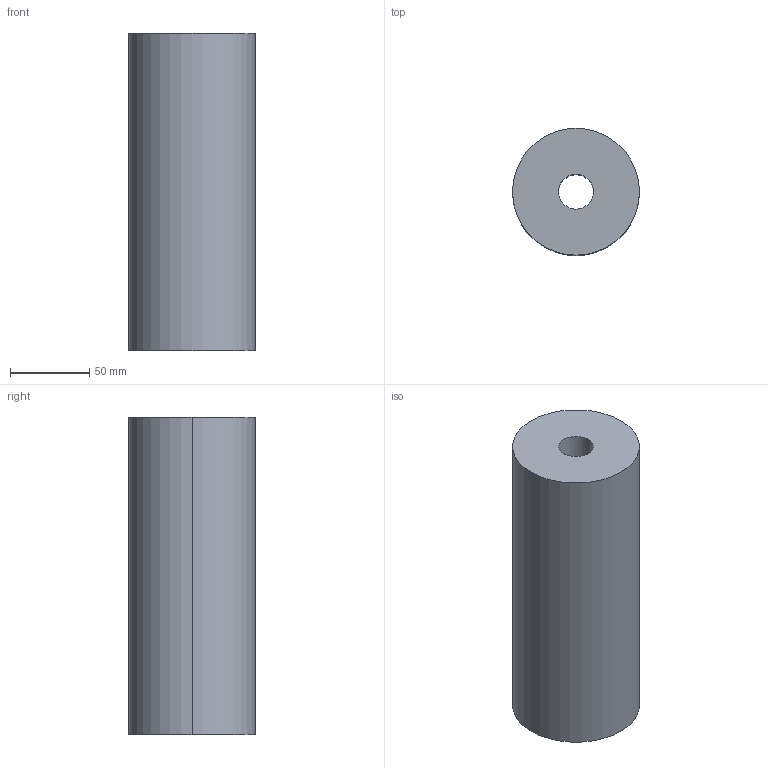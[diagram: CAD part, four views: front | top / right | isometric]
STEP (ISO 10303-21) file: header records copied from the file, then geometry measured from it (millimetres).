
FILE_DESCRIPTION(/* description */ (''),/* implementation_level */ '2;1');
FILE_NAME(/* name */ '3d_pla80-200_04961_r00.stp',/* time_stamp */ '2011-01-10T14:11:43+09:00',/* author */ ('MISUMI'),/* organization */ (''),/* preprocessor_version */ 'ST-DEVELOPER v11',/* originating_system */ 'UGS - NX 5.0',/* authorisation */ '');
FILE_SCHEMA (('CONFIG_CONTROL_DESIGN'));
Length unit declared in the file: millimetre
Products named in the file (1): 3d_pla80-200_04961_r00
Bounding box: 80 x 80 x 200 mm (x, y, z)
Volume: 929283.1 mm3; surface area: 73381.3 mm2
Topology: 1 solids, 1 shells, 6 faces, 12 edges, 8 vertices
Faces by surface type: cylinder 4, plane 2
Entity records: 254 total; most frequent: DIRECTION 34, CARTESIAN_POINT 27, ORIENTED_EDGE 24, AXIS2_PLACEMENT_3D 15, EDGE_CURVE 12, EDGE_LOOP 8, VERTEX_POINT 8, CIRCLE 8
